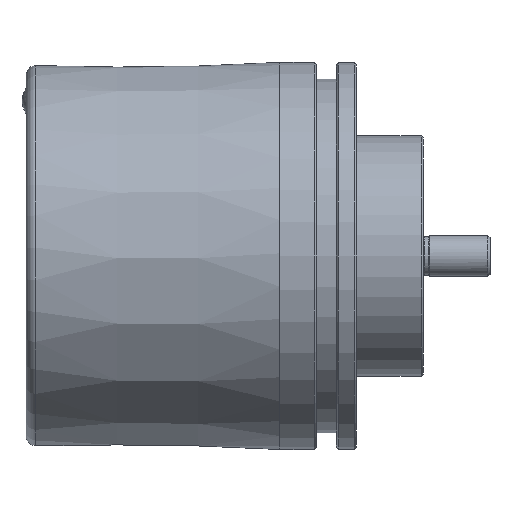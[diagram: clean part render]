
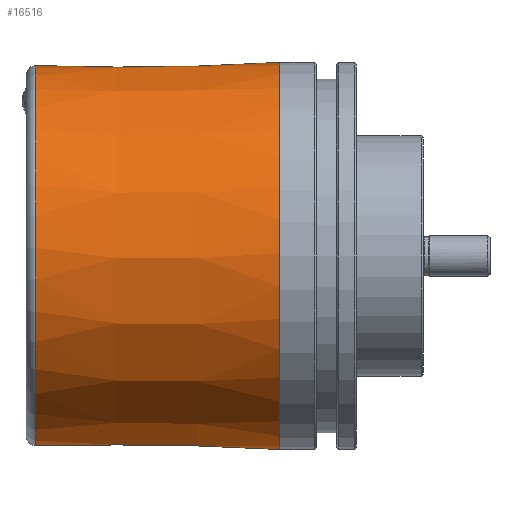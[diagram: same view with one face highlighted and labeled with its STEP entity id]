
A CAD part, front view. The second image highlights one B-rep face of the part: STEP entity #16516.
In plain terms, the highlighted conical face has half-angle 0.75 degrees and reference radius 29 mm.
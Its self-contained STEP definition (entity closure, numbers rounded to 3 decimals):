
#500 = CARTESIAN_POINT ( 'NONE',  ( -5.48, 22.054, 18.569 ) ) ;
#546 = CARTESIAN_POINT ( 'NONE',  ( -18.021, 25.789, -12.517 ) ) ;
#754 = CARTESIAN_POINT ( 'NONE',  ( -12.479, 21.931, 18.572 ) ) ;
#1138 = CARTESIAN_POINT ( 'NONE',  ( -5.038, 22.082, 18.544 ) ) ;
#1140 = CARTESIAN_POINT ( 'NONE',  ( -5.043, 26.021, -12.427 ) ) ;
#1190 = CARTESIAN_POINT ( 'NONE',  ( -2.48, 24.286, 15.608 ) ) ;
#1492 = EDGE_CURVE ( 'NONE', #7498, #14087, #7776, .T. ) ;
#1719 = ORIENTED_EDGE ( 'NONE', *, *, #13322, .T. ) ;
#1847 = CARTESIAN_POINT ( 'NONE',  ( -11.175, 25.904, -12.485 ) ) ;
#2046 = CARTESIAN_POINT ( 'NONE',  ( -20.478, 21.791, 18.575 ) ) ;
#2122 = ORIENTED_EDGE ( 'NONE', *, *, #16161, .F. ) ;
#2346 = EDGE_LOOP ( 'NONE', ( #13920, #15330, #2122, #4333, #12387, #1719 ) ) ;
#2383 = CARTESIAN_POINT ( 'NONE',  ( -2.618, 27.06, -10.057 ) ) ;
#2446 = CARTESIAN_POINT ( 'NONE',  ( -4.417, 22.227, 18.383 ) ) ;
#2447 = CARTESIAN_POINT ( 'NONE',  ( -5.48, 26., -12.458 ) ) ;
#2795 = CARTESIAN_POINT ( 'NONE',  ( 7.5, 28.768, 3.659 ) ) ;
#3127 = CARTESIAN_POINT ( 'NONE',  ( -5.48, 26., -12.458 ) ) ;
#3329 = CARTESIAN_POINT ( 'NONE',  ( -26.172, 21.691, 18.577 ) ) ;
#3367 = DIRECTION ( 'NONE',  ( 1., 0., 0. ) ) ;
#3403 = EDGE_CURVE ( 'NONE', #13039, #12522, #16523, .T. ) ;
#3659 = CARTESIAN_POINT ( 'NONE',  ( -2.834, 26.836, -10.632 ) ) ;
#3711 = CARTESIAN_POINT ( 'NONE',  ( -3.864, 22.462, 18.107 ) ) ;
#3737 = CARTESIAN_POINT ( 'NONE',  ( -2.48, 0., 0. ) ) ;
#4276 = CARTESIAN_POINT ( 'NONE',  ( -29.02, 25.603, -12.57 ) ) ;
#4333 = ORIENTED_EDGE ( 'NONE', *, *, #8868, .T. ) ;
#4338 = CARTESIAN_POINT ( 'NONE',  ( -28.02, 25.62, -12.565 ) ) ;
#4634 = CARTESIAN_POINT ( 'NONE',  ( 7.5, 0., 0. ) ) ;
#4718 = AXIS2_PLACEMENT_3D ( 'NONE', #13135, #5513, #14434 ) ;
#4725 = DIRECTION ( 'NONE',  ( -1., 0., 0. ) ) ;
#4943 = CARTESIAN_POINT ( 'NONE',  ( -3.145, 26.614, -11.166 ) ) ;
#4993 = CARTESIAN_POINT ( 'NONE',  ( -3.399, 22.757, 17.745 ) ) ;
#5017 = DIRECTION ( 'NONE',  ( 0., 0.992, 0.126 ) ) ;
#5138 = B_SPLINE_CURVE_WITH_KNOTS ( 'NONE', 3,
 ( #7477, #15140, #1138, #10018, #2446, #11314, #3711, #12609, #4993, #13896, #6243, #15205, #7526, #16461, #8814, #1190 ),
 .UNSPECIFIED., .F., .F.,
 ( 4, 2, 2, 2, 2, 2, 2, 4 ),
 ( 0., 0.001, 0.001, 0.002, 0.003, 0.003, 0.004, 0.005 ),
 .UNSPECIFIED. ) ;
#5513 = DIRECTION ( 'NONE',  ( 1., 0., 0. ) ) ;
#5828 = CARTESIAN_POINT ( 'NONE',  ( -5.48, 22.054, 18.569 ) ) ;
#5912 = FACE_BOUND ( 'NONE', #2346, .T. ) ;
#6190 = CARTESIAN_POINT ( 'NONE',  ( -3.548, 26.404, -11.639 ) ) ;
#6243 = CARTESIAN_POINT ( 'NONE',  ( -3.029, 23.088, 17.32 ) ) ;
#6891 = CARTESIAN_POINT ( 'NONE',  ( -27.02, 25.637, -12.56 ) ) ;
#7360 = VERTEX_POINT ( 'NONE', #11148 ) ;
#7425 = CARTESIAN_POINT ( 'NONE',  ( -2.48, 27.351, -9.241 ) ) ;
#7477 = CARTESIAN_POINT ( 'NONE',  ( -5.48, 22.054, 18.569 ) ) ;
#7479 = CARTESIAN_POINT ( 'NONE',  ( -4.044, 26.22, -12.033 ) ) ;
#7498 = VERTEX_POINT ( 'NONE', #14117 ) ;
#7526 = CARTESIAN_POINT ( 'NONE',  ( -2.75, 23.442, 16.845 ) ) ;
#7776 = B_SPLINE_CURVE_WITH_KNOTS ( 'NONE', 3,
 ( #8710, #7425, #15082, #9967, #2383, #11259, #3659, #12549, #4943, #13845, #6190, #15142, #7479, #16406, #8764, #1140, #10022, #2447 ),
 .UNSPECIFIED., .F., .F.,
 ( 4, 2, 2, 2, 2, 2, 2, 2, 4 ),
 ( 0., 0.001, 0.001, 0.002, 0.003, 0.003, 0.004, 0.005, 0.005 ),
 .UNSPECIFIED. ) ;
#7848 = AXIS2_PLACEMENT_3D ( 'NONE', #4634, #3367, #9739 ) ;
#8060 = CARTESIAN_POINT ( 'NONE',  ( -29.02, 21.641, 18.578 ) ) ;
#8160 = CARTESIAN_POINT ( 'NONE',  ( -22.021, 25.721, -12.536 ) ) ;
#8206 = B_SPLINE_CURVE_WITH_KNOTS ( 'NONE', 3,
 ( #5828, #13450, #16027, #8363, #754, #9644, #2046, #10924, #3329, #12233 ),
 .UNSPECIFIED., .F., .F.,
 ( 4, 3, 3, 4 ),
 ( 0., 0.003, 0.015, 0.024 ),
 .UNSPECIFIED. ) ;
#8363 = CARTESIAN_POINT ( 'NONE',  ( -8.48, 22.001, 18.57 ) ) ;
#8710 = CARTESIAN_POINT ( 'NONE',  ( -2.48, 27.42, -9.032 ) ) ;
#8764 = CARTESIAN_POINT ( 'NONE',  ( -4.623, 26.079, -12.317 ) ) ;
#8814 = CARTESIAN_POINT ( 'NONE',  ( -2.48, 24.048, 15.979 ) ) ;
#8868 = EDGE_CURVE ( 'NONE', #9558, #13039, #8206, .T. ) ;
#9451 = CARTESIAN_POINT ( 'NONE',  ( -14.022, 25.856, -12.498 ) ) ;
#9455 = ORIENTED_EDGE ( 'NONE', *, *, #15596, .T. ) ;
#9558 = VERTEX_POINT ( 'NONE', #500 ) ;
#9644 = CARTESIAN_POINT ( 'NONE',  ( -16.479, 21.861, 18.573 ) ) ;
#9739 = DIRECTION ( 'NONE',  ( 0., -0.992, -0.126 ) ) ;
#9967 = CARTESIAN_POINT ( 'NONE',  ( -2.567, 27.135, -9.855 ) ) ;
#10018 = CARTESIAN_POINT ( 'NONE',  ( -4.617, 22.167, 18.451 ) ) ;
#10022 = CARTESIAN_POINT ( 'NONE',  ( -5.259, 26.004, -12.456 ) ) ;
#10728 = CARTESIAN_POINT ( 'NONE',  ( -8.328, 25.952, -12.471 ) ) ;
#10924 = CARTESIAN_POINT ( 'NONE',  ( -23.325, 21.741, 18.576 ) ) ;
#11148 = CARTESIAN_POINT ( 'NONE',  ( -2.48, 24.286, 15.608 ) ) ;
#11259 = CARTESIAN_POINT ( 'NONE',  ( -2.752, 26.911, -10.445 ) ) ;
#11314 = CARTESIAN_POINT ( 'NONE',  ( -4.037, 22.376, 18.21 ) ) ;
#11604 = EDGE_CURVE ( 'NONE', #7498, #7360, #15414, .T. ) ;
#11882 = EDGE_LOOP ( 'NONE', ( #9455 ) ) ;
#12049 = CARTESIAN_POINT ( 'NONE',  ( -5.48, 26., -12.458 ) ) ;
#12233 = CARTESIAN_POINT ( 'NONE',  ( -29.02, 21.641, 18.578 ) ) ;
#12352 = CARTESIAN_POINT ( 'NONE',  ( 7.5, 0., 0. ) ) ;
#12387 = ORIENTED_EDGE ( 'NONE', *, *, #3403, .T. ) ;
#12522 = VERTEX_POINT ( 'NONE', #13225 ) ;
#12549 = CARTESIAN_POINT ( 'NONE',  ( -3.03, 26.688, -10.992 ) ) ;
#12609 = CARTESIAN_POINT ( 'NONE',  ( -3.545, 22.652, 17.875 ) ) ;
#12632 = DIRECTION ( 'NONE',  ( 1., 0., 0. ) ) ;
#13039 = VERTEX_POINT ( 'NONE', #8060 ) ;
#13135 = CARTESIAN_POINT ( 'NONE',  ( -29.02, 0., 0. ) ) ;
#13225 = CARTESIAN_POINT ( 'NONE',  ( -29.02, 25.603, -12.57 ) ) ;
#13322 = EDGE_CURVE ( 'NONE', #12522, #14087, #14720, .T. ) ;
#13450 = CARTESIAN_POINT ( 'NONE',  ( -6.48, 22.036, 18.569 ) ) ;
#13559 = CIRCLE ( 'NONE', #15119, 29. ) ;
#13633 = DIRECTION ( 'NONE',  ( 0., 0.992, 0.126 ) ) ;
#13845 = CARTESIAN_POINT ( 'NONE',  ( -3.404, 26.472, -11.49 ) ) ;
#13896 = CARTESIAN_POINT ( 'NONE',  ( -3.141, 22.975, 17.467 ) ) ;
#13920 = ORIENTED_EDGE ( 'NONE', *, *, #1492, .F. ) ;
#14081 = CONICAL_SURFACE ( 'NONE', #7848, 29., 0.013 ) ;
#14087 = VERTEX_POINT ( 'NONE', #12049 ) ;
#14117 = CARTESIAN_POINT ( 'NONE',  ( -2.48, 27.42, -9.032 ) ) ;
#14434 = DIRECTION ( 'NONE',  ( 0., 0.992, 0.126 ) ) ;
#14720 = B_SPLINE_CURVE_WITH_KNOTS ( 'NONE', 3,
 ( #4276, #4338, #6891, #15827, #8160, #546, #9451, #1847, #10728, #3127 ),
 .UNSPECIFIED., .F., .F.,
 ( 4, 3, 3, 4 ),
 ( 0., 0.003, 0.015, 0.024 ),
 .UNSPECIFIED. ) ;
#15082 = CARTESIAN_POINT ( 'NONE',  ( -2.498, 27.28, -9.448 ) ) ;
#15119 = AXIS2_PLACEMENT_3D ( 'NONE', #12352, #4725, #13633 ) ;
#15140 = CARTESIAN_POINT ( 'NONE',  ( -5.258, 22.057, 18.569 ) ) ;
#15142 = CARTESIAN_POINT ( 'NONE',  ( -3.867, 26.279, -11.911 ) ) ;
#15205 = CARTESIAN_POINT ( 'NONE',  ( -2.834, 23.321, 17.01 ) ) ;
#15330 = ORIENTED_EDGE ( 'NONE', *, *, #11604, .T. ) ;
#15414 = CIRCLE ( 'NONE', #15869, 28.869 ) ;
#15596 = EDGE_CURVE ( 'NONE', #16446, #16446, #13559, .T. ) ;
#15717 = FACE_OUTER_BOUND ( 'NONE', #11882, .T. ) ;
#15827 = CARTESIAN_POINT ( 'NONE',  ( -26.02, 25.654, -12.555 ) ) ;
#15869 = AXIS2_PLACEMENT_3D ( 'NONE', #3737, #12632, #5017 ) ;
#16027 = CARTESIAN_POINT ( 'NONE',  ( -7.48, 22.019, 18.57 ) ) ;
#16161 = EDGE_CURVE ( 'NONE', #9558, #7360, #5138, .T. ) ;
#16406 = CARTESIAN_POINT ( 'NONE',  ( -4.419, 26.121, -12.235 ) ) ;
#16446 = VERTEX_POINT ( 'NONE', #2795 ) ;
#16461 = CARTESIAN_POINT ( 'NONE',  ( -2.549, 23.806, 16.334 ) ) ;
#16516 = ADVANCED_FACE ( 'NONE', ( #5912, #15717 ), #14081, .T. ) ;
#16523 = CIRCLE ( 'NONE', #4718, 28.522 ) ;
